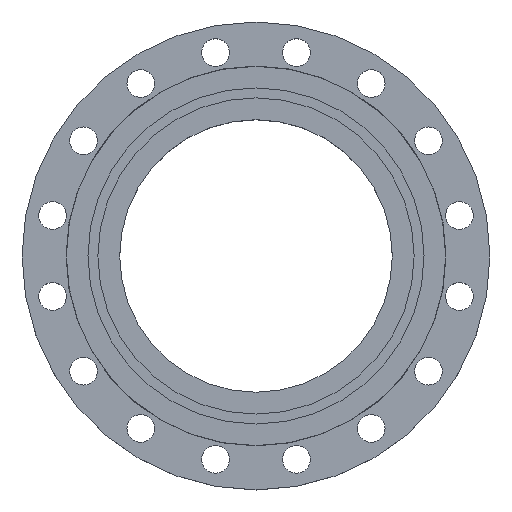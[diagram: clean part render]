
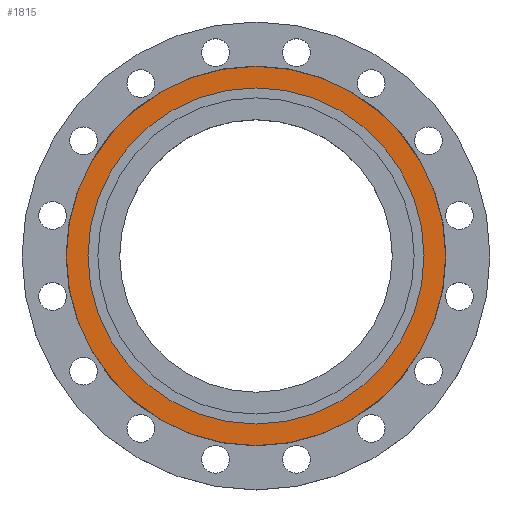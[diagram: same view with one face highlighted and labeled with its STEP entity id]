
A CAD part, top view. The second image highlights one B-rep face of the part: STEP entity #1815.
In plain terms, the highlighted planar face has unit normal (0, 0, 1).
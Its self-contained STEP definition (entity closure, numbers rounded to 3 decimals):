
#26 = AXIS2_PLACEMENT_3D ( 'NONE', #577, #575, #573 ) ;
#98 = EDGE_CURVE ( 'NONE', #1659, #1288, #317, .T. ) ;
#107 = CARTESIAN_POINT ( 'NONE',  ( -237., 0., 0. ) ) ;
#139 = AXIS2_PLACEMENT_3D ( 'NONE', #237, #234, #233 ) ;
#214 = CIRCLE ( 'NONE', #26, 237. ) ;
#233 = DIRECTION ( 'NONE',  ( -1., 0., 0. ) ) ;
#234 = DIRECTION ( 'NONE',  ( 0., 0., -1. ) ) ;
#237 = CARTESIAN_POINT ( 'NONE',  ( 0., 0., 0. ) ) ;
#317 = CIRCLE ( 'NONE', #323, 267.5 ) ;
#323 = AXIS2_PLACEMENT_3D ( 'NONE', #875, #873, #872 ) ;
#365 = CARTESIAN_POINT ( 'NONE',  ( 237., 0., 0. ) ) ;
#573 = DIRECTION ( 'NONE',  ( -1., 0., 0. ) ) ;
#575 = DIRECTION ( 'NONE',  ( 0., 0., -1. ) ) ;
#577 = CARTESIAN_POINT ( 'NONE',  ( 0., 0., 0. ) ) ;
#600 = EDGE_CURVE ( 'NONE', #945, #1211, #214, .T. ) ;
#634 = CARTESIAN_POINT ( 'NONE',  ( -267.5, 0., 0. ) ) ;
#773 = AXIS2_PLACEMENT_3D ( 'NONE', #785, #1461, #1835 ) ;
#785 = CARTESIAN_POINT ( 'NONE',  ( 0., 0., 0. ) ) ;
#872 = DIRECTION ( 'NONE',  ( -1., 0., 0. ) ) ;
#873 = DIRECTION ( 'NONE',  ( 0., 0., -1. ) ) ;
#875 = CARTESIAN_POINT ( 'NONE',  ( 0., 0., 0. ) ) ;
#894 = CARTESIAN_POINT ( 'NONE',  ( 0., 0., 0. ) ) ;
#945 = VERTEX_POINT ( 'NONE', #365 ) ;
#961 = FACE_OUTER_BOUND ( 'NONE', #1371, .T. ) ;
#1080 = EDGE_CURVE ( 'NONE', #1288, #1659, #1855, .T. ) ;
#1211 = VERTEX_POINT ( 'NONE', #107 ) ;
#1281 = CIRCLE ( 'NONE', #1831, 237. ) ;
#1288 = VERTEX_POINT ( 'NONE', #1409 ) ;
#1371 = EDGE_LOOP ( 'NONE', ( #1617, #1619 ) ) ;
#1409 = CARTESIAN_POINT ( 'NONE',  ( 267.5, 0., 0. ) ) ;
#1461 = DIRECTION ( 'NONE',  ( 0., 0., 1. ) ) ;
#1557 = DIRECTION ( 'NONE',  ( 0., 0., -1. ) ) ;
#1572 = EDGE_LOOP ( 'NONE', ( #1621, #1622 ) ) ;
#1617 = ORIENTED_EDGE ( 'NONE', *, *, #98, .F. ) ;
#1619 = ORIENTED_EDGE ( 'NONE', *, *, #1080, .F. ) ;
#1621 = ORIENTED_EDGE ( 'NONE', *, *, #1771, .T. ) ;
#1622 = ORIENTED_EDGE ( 'NONE', *, *, #600, .T. ) ;
#1627 = FACE_BOUND ( 'NONE', #1572, .T. ) ;
#1659 = VERTEX_POINT ( 'NONE', #634 ) ;
#1771 = EDGE_CURVE ( 'NONE', #1211, #945, #1281, .T. ) ;
#1815 = ADVANCED_FACE ( 'NONE', ( #961, #1627 ), #1865, .T. ) ;
#1831 = AXIS2_PLACEMENT_3D ( 'NONE', #894, #1557, #1852 ) ;
#1835 = DIRECTION ( 'NONE',  ( 1., 0., 0. ) ) ;
#1852 = DIRECTION ( 'NONE',  ( -1., 0., 0. ) ) ;
#1855 = CIRCLE ( 'NONE', #139, 267.5 ) ;
#1865 = PLANE ( 'NONE',  #773 ) ;
